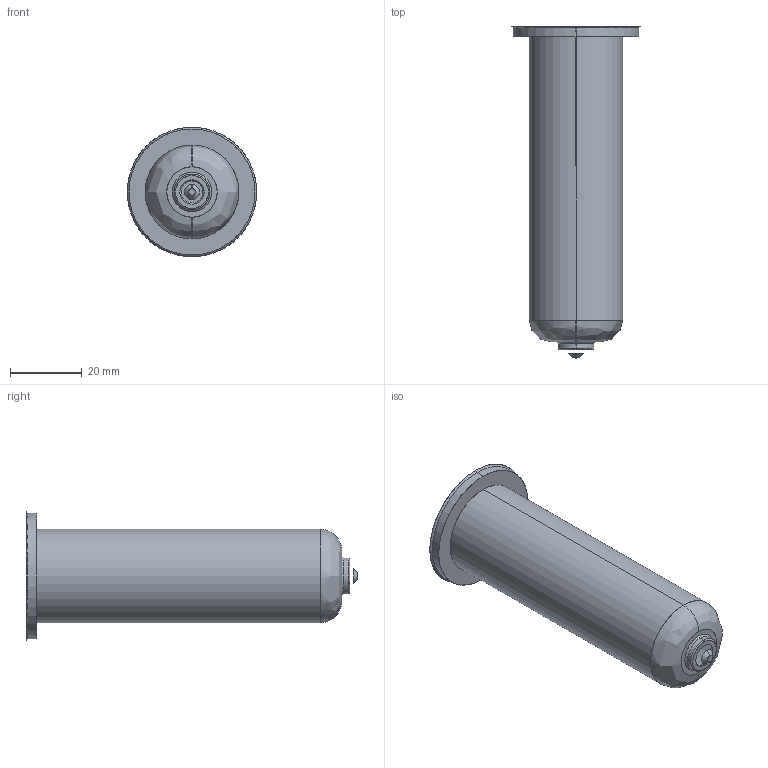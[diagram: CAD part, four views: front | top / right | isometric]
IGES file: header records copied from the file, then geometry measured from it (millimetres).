
Start section: SolidWorks IGES file using analytic representation for surfaces
Global section: file name: C:\Users\luca.EMPAD\Desktop\TEM\Sede UGEP3052-M-A C-89 L-107 Ød-2.0.IGS; native system: SolidWorks 2012; preprocessor: SolidWorks 2012; author: luca; date: 120402.151932; units: millimetre
Bounding box: 36 x 92.23 x 36 mm (x, y, z)
Surface area: 9102.3 mm2 (no closed solid volume)
Topology: 0 solids, 0 shells, 25 faces, 404 edges, 404 vertices
Faces by surface type: revolution 16, bspline 9
